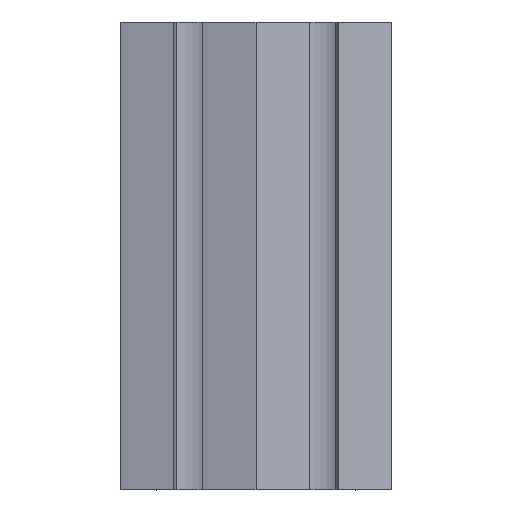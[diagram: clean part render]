
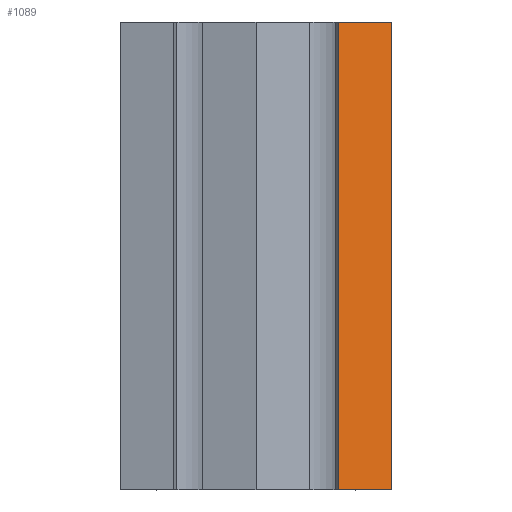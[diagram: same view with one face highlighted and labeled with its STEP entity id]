
A CAD part, top view. The second image highlights one B-rep face of the part: STEP entity #1089.
In plain terms, the highlighted planar face has unit normal (0.259, 0, 0.966).
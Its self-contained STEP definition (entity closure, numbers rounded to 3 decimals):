
#124=ORIENTED_EDGE('',*,*,#438,.T.);
#125=ORIENTED_EDGE('',*,*,#439,.F.);
#126=ORIENTED_EDGE('',*,*,#386,.F.);
#127=ORIENTED_EDGE('',*,*,#437,.T.);
#386=EDGE_CURVE('',#544,#545,#651,.T.);
#437=EDGE_CURVE('',#544,#593,#689,.T.);
#438=EDGE_CURVE('',#593,#594,#690,.T.);
#439=EDGE_CURVE('',#545,#594,#691,.T.);
#544=VERTEX_POINT('',#1557);
#545=VERTEX_POINT('',#1559);
#593=VERTEX_POINT('',#1659);
#594=VERTEX_POINT('',#1663);
#651=LINE('',#1558,#781);
#689=LINE('',#1660,#819);
#690=LINE('',#1662,#820);
#691=LINE('',#1664,#821);
#781=VECTOR('',#1252,1000.);
#819=VECTOR('',#1320,1000.);
#820=VECTOR('',#1323,1000.);
#821=VECTOR('',#1324,1000.);
#912=EDGE_LOOP('',(#124,#125,#126,#127));
#982=FACE_BOUND('',#912,.T.);
#1047=PLANE('',#1172);
#1089=ADVANCED_FACE('',(#982),#1047,.F.);
#1172=AXIS2_PLACEMENT_3D('',#1661,#1321,#1322);
#1252=DIRECTION('',(-0.966,0.,0.259));
#1320=DIRECTION('',(0.,1.,0.));
#1321=DIRECTION('',(-0.259,0.,-0.966));
#1322=DIRECTION('',(-0.966,0.,0.259));
#1323=DIRECTION('',(-0.966,0.,0.259));
#1324=DIRECTION('',(0.,1.,0.));
#1557=CARTESIAN_POINT('',(28.978,-50.,-7.765));
#1558=CARTESIAN_POINT('',(28.978,-50.,-7.765));
#1559=CARTESIAN_POINT('',(17.628,-50.,-4.723));
#1659=CARTESIAN_POINT('',(28.978,50.,-7.765));
#1660=CARTESIAN_POINT('',(28.978,-50.,-7.765));
#1661=CARTESIAN_POINT('',(28.978,-50.,-7.765));
#1662=CARTESIAN_POINT('',(28.978,50.,-7.765));
#1663=CARTESIAN_POINT('',(17.628,50.,-4.723));
#1664=CARTESIAN_POINT('',(17.628,-50.,-4.723));
